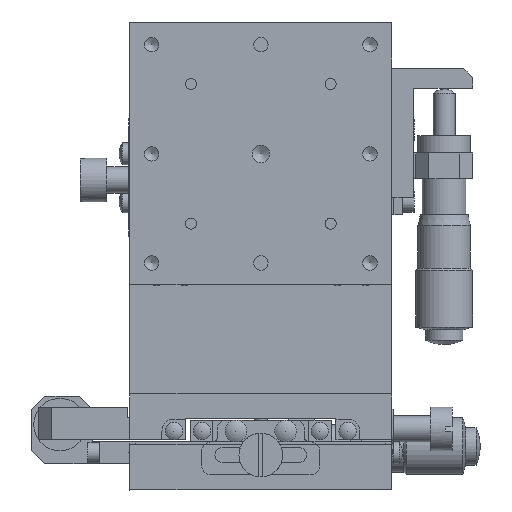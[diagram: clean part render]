
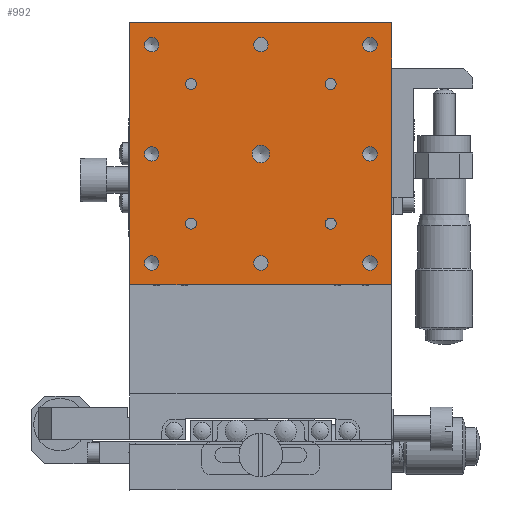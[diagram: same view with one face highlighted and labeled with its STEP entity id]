
A CAD part, front view. The second image highlights one B-rep face of the part: STEP entity #992.
In plain terms, the highlighted planar face has unit normal (0, -1, 0).
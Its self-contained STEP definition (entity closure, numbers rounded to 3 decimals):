
#992 = ADVANCED_FACE( '', ( #2435, #2436, #2437, #2438, #2439, #2440, #2441, #2442, #2443, #2444, #2445, #2446, #2447, #2448 ), #2449, .T. );
#2435 = FACE_BOUND( '', #4059, .T. );
#2436 = FACE_BOUND( '', #4060, .T. );
#2437 = FACE_BOUND( '', #4061, .T. );
#2438 = FACE_BOUND( '', #4062, .T. );
#2439 = FACE_BOUND( '', #4063, .T. );
#2440 = FACE_BOUND( '', #4064, .T. );
#2441 = FACE_BOUND( '', #4065, .T. );
#2442 = FACE_BOUND( '', #4066, .T. );
#2443 = FACE_BOUND( '', #4067, .T. );
#2444 = FACE_BOUND( '', #4068, .T. );
#2445 = FACE_BOUND( '', #4069, .T. );
#2446 = FACE_BOUND( '', #4070, .T. );
#2447 = FACE_BOUND( '', #4071, .T. );
#2448 = FACE_OUTER_BOUND( '', #4072, .T. );
#2449 = PLANE( '', #4073 );
#4059 = EDGE_LOOP( '', ( #8242 ) );
#4060 = EDGE_LOOP( '', ( #8243 ) );
#4061 = EDGE_LOOP( '', ( #8244 ) );
#4062 = EDGE_LOOP( '', ( #8245 ) );
#4063 = EDGE_LOOP( '', ( #8246 ) );
#4064 = EDGE_LOOP( '', ( #8247 ) );
#4065 = EDGE_LOOP( '', ( #8248 ) );
#4066 = EDGE_LOOP( '', ( #8249 ) );
#4067 = EDGE_LOOP( '', ( #8250 ) );
#4068 = EDGE_LOOP( '', ( #8251 ) );
#4069 = EDGE_LOOP( '', ( #8252 ) );
#4070 = EDGE_LOOP( '', ( #8253 ) );
#4071 = EDGE_LOOP( '', ( #8254 ) );
#4072 = EDGE_LOOP( '', ( #8255, #8256, #8257, #8258 ) );
#4073 = AXIS2_PLACEMENT_3D( '', #8259, #8260, #8261 );
#8242 = ORIENTED_EDGE( '', *, *, #10049, .T. );
#8243 = ORIENTED_EDGE( '', *, *, #10050, .T. );
#8244 = ORIENTED_EDGE( '', *, *, #10051, .T. );
#8245 = ORIENTED_EDGE( '', *, *, #10052, .T. );
#8246 = ORIENTED_EDGE( '', *, *, #10053, .T. );
#8247 = ORIENTED_EDGE( '', *, *, #10054, .T. );
#8248 = ORIENTED_EDGE( '', *, *, #10055, .T. );
#8249 = ORIENTED_EDGE( '', *, *, #10056, .T. );
#8250 = ORIENTED_EDGE( '', *, *, #10057, .T. );
#8251 = ORIENTED_EDGE( '', *, *, #10058, .T. );
#8252 = ORIENTED_EDGE( '', *, *, #10059, .T. );
#8253 = ORIENTED_EDGE( '', *, *, #10060, .T. );
#8254 = ORIENTED_EDGE( '', *, *, #10061, .T. );
#8255 = ORIENTED_EDGE( '', *, *, #10062, .F. );
#8256 = ORIENTED_EDGE( '', *, *, #10063, .F. );
#8257 = ORIENTED_EDGE( '', *, *, #10064, .F. );
#8258 = ORIENTED_EDGE( '', *, *, #10065, .F. );
#8259 = CARTESIAN_POINT( '', ( 0., -51., 77. ) );
#8260 = DIRECTION( '', ( 0., -1., 0. ) );
#8261 = DIRECTION( '', ( 1., 0., 0. ) );
#10049 = EDGE_CURVE( '', #12208, #12208, #12209, .T. );
#10050 = EDGE_CURVE( '', #12210, #12210, #12211, .T. );
#10051 = EDGE_CURVE( '', #12212, #12212, #12213, .T. );
#10052 = EDGE_CURVE( '', #12214, #12214, #12215, .T. );
#10053 = EDGE_CURVE( '', #12216, #12216, #12217, .T. );
#10054 = EDGE_CURVE( '', #12218, #12218, #12219, .T. );
#10055 = EDGE_CURVE( '', #12220, #12220, #12221, .T. );
#10056 = EDGE_CURVE( '', #12222, #12222, #12223, .T. );
#10057 = EDGE_CURVE( '', #12224, #12224, #12225, .T. );
#10058 = EDGE_CURVE( '', #12226, #12226, #12227, .T. );
#10059 = EDGE_CURVE( '', #12228, #12228, #12229, .T. );
#10060 = EDGE_CURVE( '', #12230, #12230, #12231, .T. );
#10061 = EDGE_CURVE( '', #12232, #12232, #12233, .T. );
#10062 = EDGE_CURVE( '', #12234, #12235, #12236, .T. );
#10063 = EDGE_CURVE( '', #12237, #12234, #12238, .T. );
#10064 = EDGE_CURVE( '', #12239, #12237, #12240, .T. );
#10065 = EDGE_CURVE( '', #12235, #12239, #12241, .T. );
#12208 = VERTEX_POINT( '', #15281 );
#12209 = CIRCLE( '', #15282, 2. );
#12210 = VERTEX_POINT( '', #15283 );
#12211 = CIRCLE( '', #15284, 1.25 );
#12212 = VERTEX_POINT( '', #15285 );
#12213 = CIRCLE( '', #15286, 1.25 );
#12214 = VERTEX_POINT( '', #15287 );
#12215 = CIRCLE( '', #15288, 1.25 );
#12216 = VERTEX_POINT( '', #15289 );
#12217 = CIRCLE( '', #15290, 1.25 );
#12218 = VERTEX_POINT( '', #15291 );
#12219 = CIRCLE( '', #15292, 1.65 );
#12220 = VERTEX_POINT( '', #15293 );
#12221 = CIRCLE( '', #15294, 1.65 );
#12222 = VERTEX_POINT( '', #15295 );
#12223 = CIRCLE( '', #15296, 1.65 );
#12224 = VERTEX_POINT( '', #15297 );
#12225 = CIRCLE( '', #15298, 1.65 );
#12226 = VERTEX_POINT( '', #15299 );
#12227 = CIRCLE( '', #15300, 1.65 );
#12228 = VERTEX_POINT( '', #15301 );
#12229 = CIRCLE( '', #15302, 1.65 );
#12230 = VERTEX_POINT( '', #15303 );
#12231 = CIRCLE( '', #15304, 1.65 );
#12232 = VERTEX_POINT( '', #15305 );
#12233 = CIRCLE( '', #15306, 1.65 );
#12234 = VERTEX_POINT( '', #15307 );
#12235 = VERTEX_POINT( '', #15308 );
#12236 = LINE( '', #15309, #15310 );
#12237 = VERTEX_POINT( '', #15311 );
#12238 = LINE( '', #15312, #15313 );
#12239 = VERTEX_POINT( '', #15314 );
#12240 = LINE( '', #15315, #15316 );
#12241 = LINE( '', #15317, #15318 );
#15281 = CARTESIAN_POINT( '', ( 2., -51., 77. ) );
#15282 = AXIS2_PLACEMENT_3D( '', #17569, #17570, #17571 );
#15283 = CARTESIAN_POINT( '', ( 17.25, -51., 93. ) );
#15284 = AXIS2_PLACEMENT_3D( '', #17572, #17573, #17574 );
#15285 = CARTESIAN_POINT( '', ( -14.75, -51., 93. ) );
#15286 = AXIS2_PLACEMENT_3D( '', #17575, #17576, #17577 );
#15287 = CARTESIAN_POINT( '', ( -14.75, -51., 61. ) );
#15288 = AXIS2_PLACEMENT_3D( '', #17578, #17579, #17580 );
#15289 = CARTESIAN_POINT( '', ( 17.25, -51., 61. ) );
#15290 = AXIS2_PLACEMENT_3D( '', #17581, #17582, #17583 );
#15291 = CARTESIAN_POINT( '', ( 26.65, -51., 77. ) );
#15292 = AXIS2_PLACEMENT_3D( '', #17584, #17585, #17586 );
#15293 = CARTESIAN_POINT( '', ( 26.65, -51., 102. ) );
#15294 = AXIS2_PLACEMENT_3D( '', #17587, #17588, #17589 );
#15295 = CARTESIAN_POINT( '', ( 1.65, -51., 102. ) );
#15296 = AXIS2_PLACEMENT_3D( '', #17590, #17591, #17592 );
#15297 = CARTESIAN_POINT( '', ( -23.35, -51., 102. ) );
#15298 = AXIS2_PLACEMENT_3D( '', #17593, #17594, #17595 );
#15299 = CARTESIAN_POINT( '', ( -23.35, -51., 77. ) );
#15300 = AXIS2_PLACEMENT_3D( '', #17596, #17597, #17598 );
#15301 = CARTESIAN_POINT( '', ( -23.35, -51., 52. ) );
#15302 = AXIS2_PLACEMENT_3D( '', #17599, #17600, #17601 );
#15303 = CARTESIAN_POINT( '', ( 1.65, -51., 52. ) );
#15304 = AXIS2_PLACEMENT_3D( '', #17602, #17603, #17604 );
#15305 = CARTESIAN_POINT( '', ( 26.65, -51., 52. ) );
#15306 = AXIS2_PLACEMENT_3D( '', #17605, #17606, #17607 );
#15307 = CARTESIAN_POINT( '', ( 30., -51., 47. ) );
#15308 = CARTESIAN_POINT( '', ( -30., -51., 47. ) );
#15309 = CARTESIAN_POINT( '', ( 0., -51., 47. ) );
#15310 = VECTOR( '', #17608, 1000. );
#15311 = CARTESIAN_POINT( '', ( 30., -51., 107. ) );
#15312 = CARTESIAN_POINT( '', ( 30., -51., 77. ) );
#15313 = VECTOR( '', #17609, 1000. );
#15314 = CARTESIAN_POINT( '', ( -30., -51., 107. ) );
#15315 = CARTESIAN_POINT( '', ( 0., -51., 107. ) );
#15316 = VECTOR( '', #17610, 1000. );
#15317 = CARTESIAN_POINT( '', ( -30., -51., 77. ) );
#15318 = VECTOR( '', #17611, 1000. );
#17569 = CARTESIAN_POINT( '', ( 0., -51., 77. ) );
#17570 = DIRECTION( '', ( 0., 1., 0. ) );
#17571 = DIRECTION( '', ( 1., 0., 0. ) );
#17572 = CARTESIAN_POINT( '', ( 16., -51., 93. ) );
#17573 = DIRECTION( '', ( 0., 1., 0. ) );
#17574 = DIRECTION( '', ( 1., 0., 0. ) );
#17575 = CARTESIAN_POINT( '', ( -16., -51., 93. ) );
#17576 = DIRECTION( '', ( 0., 1., 0. ) );
#17577 = DIRECTION( '', ( 1., 0., 0. ) );
#17578 = CARTESIAN_POINT( '', ( -16., -51., 61. ) );
#17579 = DIRECTION( '', ( 0., 1., 0. ) );
#17580 = DIRECTION( '', ( 1., 0., 0. ) );
#17581 = CARTESIAN_POINT( '', ( 16., -51., 61. ) );
#17582 = DIRECTION( '', ( 0., 1., 0. ) );
#17583 = DIRECTION( '', ( 1., 0., 0. ) );
#17584 = CARTESIAN_POINT( '', ( 25., -51., 77. ) );
#17585 = DIRECTION( '', ( 0., 1., 0. ) );
#17586 = DIRECTION( '', ( 1., 0., 0. ) );
#17587 = CARTESIAN_POINT( '', ( 25., -51., 102. ) );
#17588 = DIRECTION( '', ( 0., 1., 0. ) );
#17589 = DIRECTION( '', ( 1., 0., 0. ) );
#17590 = CARTESIAN_POINT( '', ( 0., -51., 102. ) );
#17591 = DIRECTION( '', ( 0., 1., 0. ) );
#17592 = DIRECTION( '', ( 1., 0., 0. ) );
#17593 = CARTESIAN_POINT( '', ( -25., -51., 102. ) );
#17594 = DIRECTION( '', ( 0., 1., 0. ) );
#17595 = DIRECTION( '', ( 1., 0., 0. ) );
#17596 = CARTESIAN_POINT( '', ( -25., -51., 77. ) );
#17597 = DIRECTION( '', ( 0., 1., 0. ) );
#17598 = DIRECTION( '', ( 1., 0., 0. ) );
#17599 = CARTESIAN_POINT( '', ( -25., -51., 52. ) );
#17600 = DIRECTION( '', ( 0., 1., 0. ) );
#17601 = DIRECTION( '', ( 1., 0., 0. ) );
#17602 = CARTESIAN_POINT( '', ( 0., -51., 52. ) );
#17603 = DIRECTION( '', ( 0., 1., 0. ) );
#17604 = DIRECTION( '', ( 1., 0., 0. ) );
#17605 = CARTESIAN_POINT( '', ( 25., -51., 52. ) );
#17606 = DIRECTION( '', ( 0., 1., 0. ) );
#17607 = DIRECTION( '', ( 1., 0., 0. ) );
#17608 = DIRECTION( '', ( -1., 0., 0. ) );
#17609 = DIRECTION( '', ( 0., 0., -1. ) );
#17610 = DIRECTION( '', ( 1., 0., 0. ) );
#17611 = DIRECTION( '', ( 0., 0., 1. ) );
